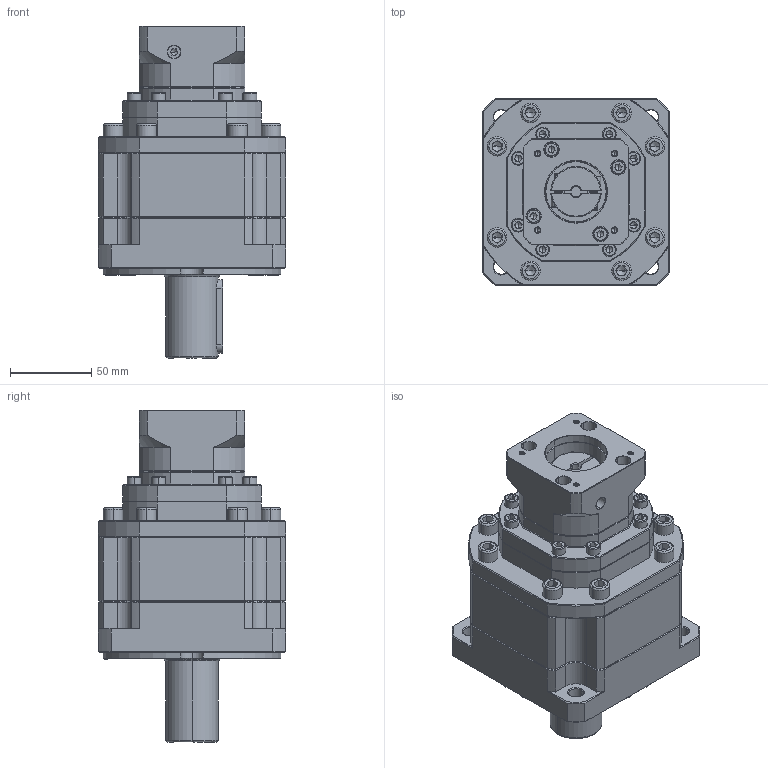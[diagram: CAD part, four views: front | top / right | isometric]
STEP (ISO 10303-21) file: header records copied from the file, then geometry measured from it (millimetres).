
FILE_DESCRIPTION (( 'STEP AP214' ), '1' );
FILE_NAME ('ZB115A-D32-L3-P2-6.35-38.1-47.14X47.14-M4.step', '2023-08-26T10:33:21', ( '' ), ( '' ), 'SwSTEP 2.0', 'SolidWorks 2016', '' );
FILE_SCHEMA (( 'AUTOMOTIVE_DESIGN' ));
Length unit declared in the file: millimetre
Products named in the file (1): ZB115A-D32-L3-P2-6.35-38.1-47.14X47.14-M4
Bounding box: 115 x 115 x 204 mm (x, y, z)
Volume: 1315836.1 mm3; surface area: 122990.6 mm2
Topology: 7 solids, 7 shells, 2550 faces, 6717 edges, 4281 vertices
Faces by surface type: plane 1306, bspline 443, cylinder 434, cone 345, torus 22
Entity records: 130452 total; most frequent: CARTESIAN_POINT 42948, ORIENTED_EDGE 13310, DIRECTION 10744, EDGE_CURVE 6655, VERTEX_POINT 4281, VECTOR 4258, LINE 4258, AXIS2_PLACEMENT_3D 3243
